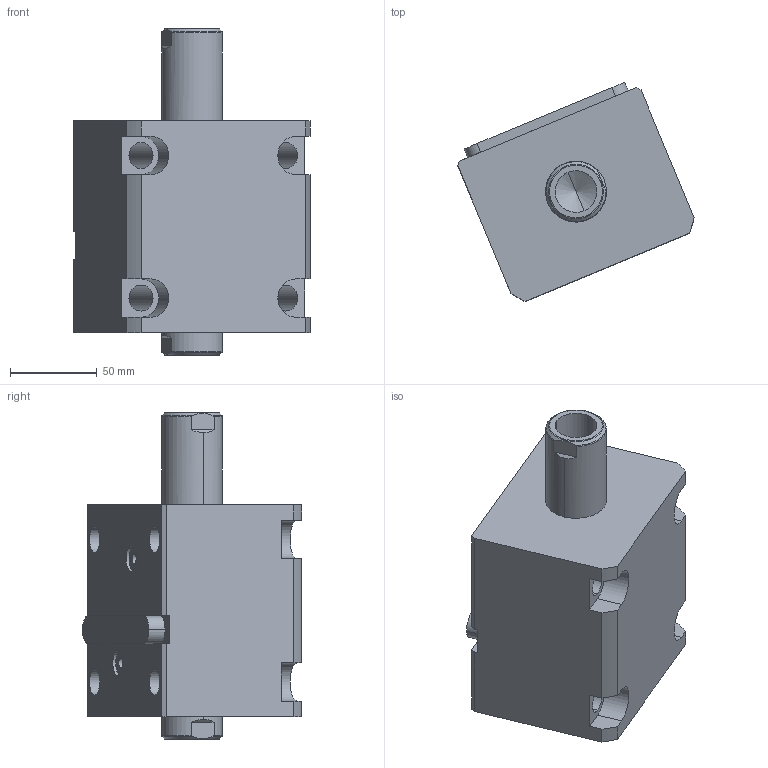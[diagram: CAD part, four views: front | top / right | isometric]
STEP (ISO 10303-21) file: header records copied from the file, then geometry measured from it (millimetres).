
FILE_DESCRIPTION (( 'STEP AP214' ), '1' );
FILE_NAME ('chtb-lwm63x40n_asm.STEP', '2018-05-22T02:16:47', ( 'Windows' ), ( 'Microsoft' ), 'SwSTEP 2.0', 'SolidWorks 2015', '' );
FILE_SCHEMA (( 'AUTOMOTIVE_DESIGN' ));
Length unit declared in the file: millimetre
Products named in the file (5): chtb-lwm63x40n_asm; CHTB-SW63X40NHSG; CHTB-LWM63X40NBT; CHTB-LA63PJ; CHTB-63QG
Assembly tree (4 placements, depth 2):
  chtb-lwm63x40n_asm
    CHTB-63QG
    CHTB-LA63PJ
    CHTB-LWM63X40NBT
    CHTB-SW63X40NHSG
Bounding box: 135.77 x 126.06 x 188 mm (x, y, z)
Volume: 1118197.7 mm3; surface area: 162492 mm2
Topology: 4 solids, 4 shells, 186 faces, 543 edges, 367 vertices
Faces by surface type: cylinder 103, plane 47, bspline 12, cone 12, torus 12
Entity records: 18665 total; most frequent: CARTESIAN_POINT 13839, ORIENTED_EDGE 1070, DIRECTION 834, EDGE_CURVE 535, VERTEX_POINT 367, AXIS2_PLACEMENT_3D 318, EDGE_LOOP 212, VECTOR 198
